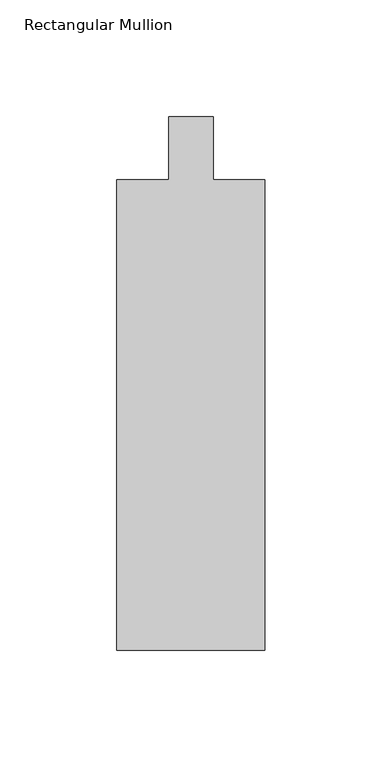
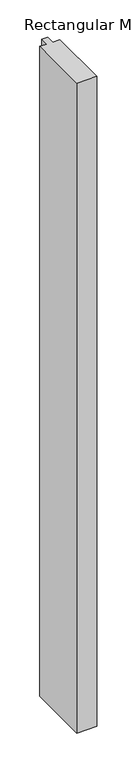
"""IFC4 building model written with IfcOpenShell, lengths in millimetres: member geometry."""

from ifc_helpers import new_model, si_unit, frame, origin, place, context, project, spatial, polyline, outline, extrude, source, transform, mapped, element, save


def rectangular_mullion_66dead4a(model_context):
    return source(origin(), model_context, "Body", "SweptSolid", [
        extrude(outline(polyline([(-63.5, -228.6), (-63.5, -26.9875), (-41.275, -26.9875), (-41.275, 0.0), (-22.225, 0.0), (-22.225, -26.9875), (0.0, -26.9875), (0.0, -228.6), (-63.5, -228.6)])), frame((0.0, 0.0, -2171.1619275), z_axis=(0.0, 0.0, 1.0), x_axis=(1.0, 0.0, 0.0)), (0.0, 0.0, 1.0), 2171.1619275),
    ])


if __name__ == "__main__":
    model = new_model("IFC4")
    model_context = context("Model", 3, world=origin())
    ifc_project = project(units=[si_unit("LENGTHUNIT", "METRE", prefix="MILLI")], contexts=[model_context])
    site = spatial("IfcSite", under=ifc_project)
    building = spatial("IfcBuilding", under=site)
    placement = place(None, origin())
    rectangular_mullion_shape = rectangular_mullion_66dead4a(model_context)
    element("IfcMember", 1, ObjectType="Rectangular Mullion : 2 1/2\" x 8\" - Capless", at=placement, inside=building, context=model_context, shape_type="MappedRepresentation", body=[
        mapped(rectangular_mullion_shape, transform((0.0, 0.0, 0.0), x_axis=(1.0, 0.0, 0.0), y_axis=(0.0, 1.0, 0.0), z_axis=(0.0, 0.0, 1.0))),
    ])
    save(model, "model.ifc")
